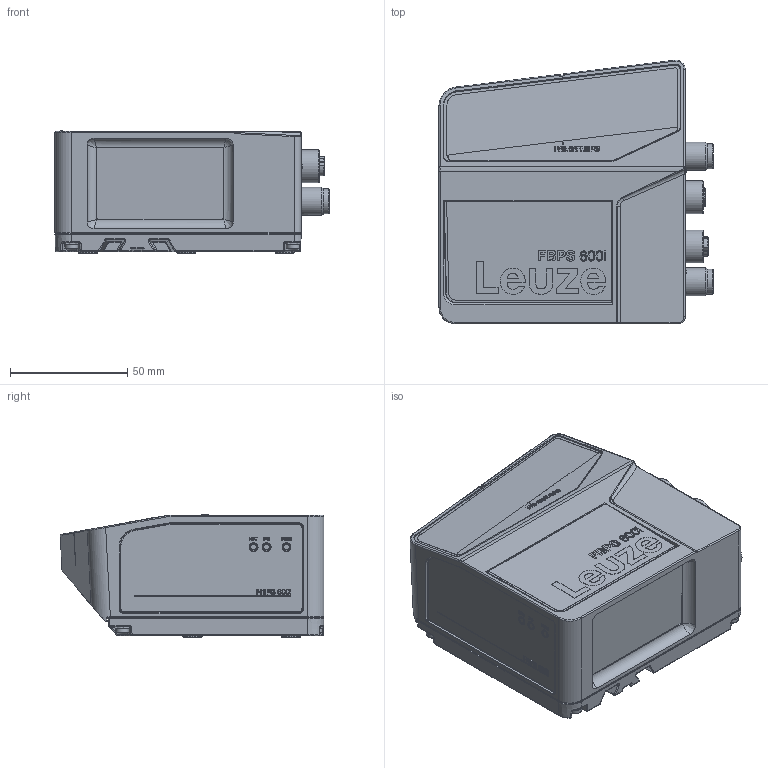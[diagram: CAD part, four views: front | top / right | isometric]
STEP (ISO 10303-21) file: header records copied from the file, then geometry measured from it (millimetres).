
FILE_DESCRIPTION(/* description */ (''),/* implementation_level */ '2;1');
FILE_NAME(/* name */ '3DCAD_FBPS648i_07_SM_100.stp',/* time_stamp */ '2025-08-21T14:01:11+02:00',/* author */ ('CC2'),/* organization */ ('Leuze electronic'),/* preprocessor_version */ 'ST-DEVELOPER v19.4',/* originating_system */ 'SIEMENS PLM Software NX2306.9180',/* authorisation */ '');
FILE_SCHEMA (('AUTOMOTIVE_DESIGN { 1 0 10303 214 3 1 1 1 }'));
Products named in the file (1): 19-103917_00_1-3DCAD_FBPS648i_07_SM_100
Bounding box: 116.9 x 112.45 x 52.19 mm (x, y, z)
Volume: 512602.6 mm3; surface area: 56406 mm2
Topology: 1 solids, 10 shells, 2559 faces, 6519 edges, 4136 vertices
Faces by surface type: plane 1232, cylinder 598, extrusion 293, torus 175, cone 129, bspline 94, sphere 38
Full cylindrical faces by diameter (mm): 1 x10, 1.03 x10, 1.1 x10, 2.5 x3, 2.693 x4, 3 x1, 3.2 x5, 3.3 x6, 5.6 x4, 8.15 x3, 8.5 x2, 8.6 x2, 9.45 x3, 9.7 x2, 10.72 x2, 11 x3, 11.6 x2, 12 x2, 12.2 x2, 14 x2, 15.8 x4
Entity records: 88259 total; most frequent: CARTESIAN_POINT 25233, ORIENTED_EDGE 12156, DIRECTION 10913, EDGE_CURVE 6078, VERTEX_POINT 3986, VECTOR 3883, LINE 3590, AXIS2_PLACEMENT_3D 3515
